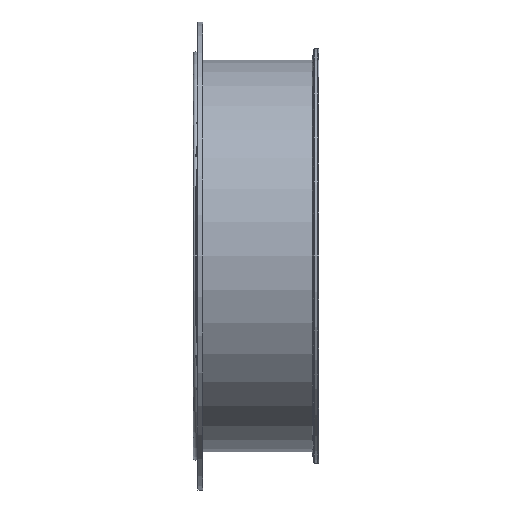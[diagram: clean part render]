
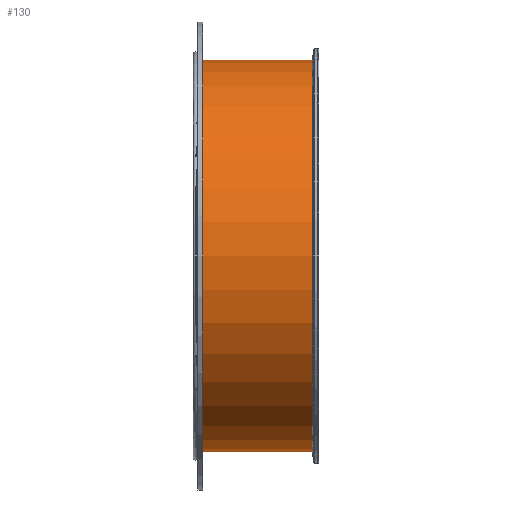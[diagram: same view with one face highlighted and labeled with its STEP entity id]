
A CAD part, left-side view. The second image highlights one B-rep face of the part: STEP entity #130.
In plain terms, the highlighted cylindrical face has radius 158.3 mm (diameter 316.6 mm), a full revolution.
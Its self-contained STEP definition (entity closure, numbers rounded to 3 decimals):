
#130=ADVANCED_FACE('',(#193,#194),#153,.T.);
#153=CYLINDRICAL_SURFACE('',#558,158.3);
#193=FACE_BOUND('',#273,.T.);
#194=FACE_BOUND('',#274,.T.);
#273=EDGE_LOOP('',(#353));
#274=EDGE_LOOP('',(#354));
#353=ORIENTED_EDGE('',*,*,#454,.F.);
#354=ORIENTED_EDGE('',*,*,#462,.F.);
#414=VERTEX_POINT('',#772);
#422=VERTEX_POINT('',#793);
#454=EDGE_CURVE('',#414,#414,#494,.T.);
#462=EDGE_CURVE('',#422,#422,#502,.T.);
#494=CIRCLE('',#543,158.3);
#502=CIRCLE('',#556,158.3);
#543=AXIS2_PLACEMENT_3D('',#771,#634,#635);
#556=AXIS2_PLACEMENT_3D('',#792,#660,#661);
#558=AXIS2_PLACEMENT_3D('',#795,#664,#665);
#634=DIRECTION('',(0.,-1.,0.));
#635=DIRECTION('',(-1.,0.,0.));
#660=DIRECTION('',(0.,1.,0.));
#661=DIRECTION('',(1.,0.,0.));
#664=DIRECTION('',(0.,1.,0.));
#665=DIRECTION('',(1.,0.,0.));
#771=CARTESIAN_POINT('',(0.,5.196,0.));
#772=CARTESIAN_POINT('',(-158.3,5.196,0.));
#792=CARTESIAN_POINT('',(0.,99.2,0.));
#793=CARTESIAN_POINT('',(158.3,99.2,0.));
#795=CARTESIAN_POINT('',(0.,-192.076,0.));
